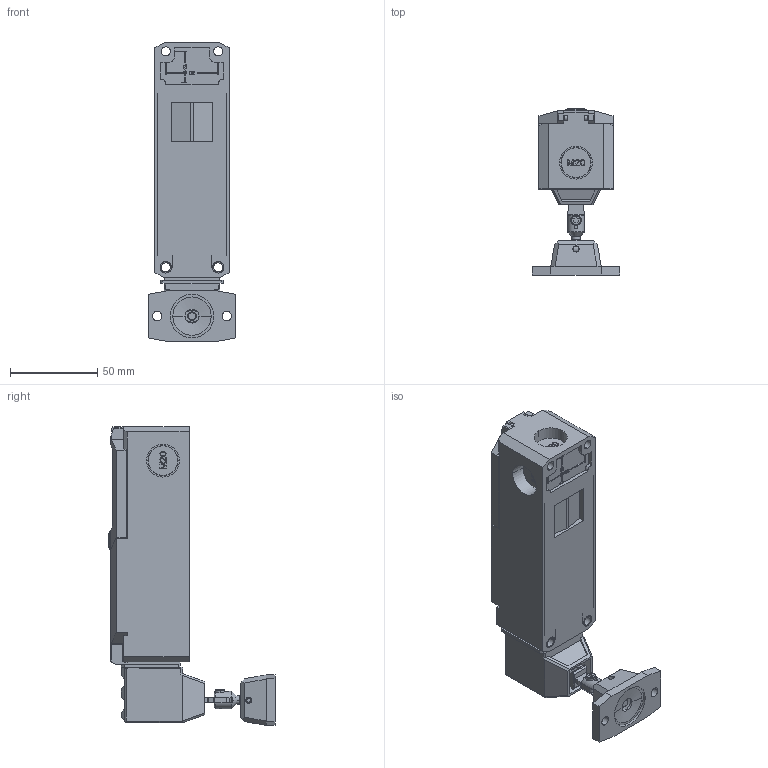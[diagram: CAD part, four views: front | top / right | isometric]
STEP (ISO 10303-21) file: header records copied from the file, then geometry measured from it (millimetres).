
FILE_DESCRIPTION((''),'2;1');
FILE_NAME('2015414_ASM','2014-03-24T',('lwegerer'),(''),'PRO/ENGINEER BY PARAMETRIC TECHNOLOGY CORPORATION, 2011040','PRO/ENGINEER BY PARAMETRIC TECHNOLOGY CORPORATION, 2011040','');
FILE_SCHEMA(('AUTOMOTIVE_DESIGN_CC2 { 1 2 10303 214 -1 1 5 2 }'));
Products named in the file (4): 2015385; 2015387; 2015389; 2015414_ASM
Assembly tree (3 placements, depth 2):
  2015414_ASM
    2015385
    2015387
    2015389
Bounding box: 50 x 95.3 x 171.5 mm (x, y, z)
Volume: 139899.5 mm3; surface area: 104959.8 mm2
Topology: 5 solids, 8 shells, 2490 faces, 6932 edges, 4475 vertices
Faces by surface type: plane 1805, cylinder 485, cone 79, torus 65, sphere 29, bspline 23, extrusion 4
Entity records: 118761 total; most frequent: CARTESIAN_POINT 17800, ORIENTED_EDGE 13776, DIRECTION 12874, PRESENTATION_STYLE_ASSIGNMENT 9075, STYLED_ITEM 6911, CURVE_STYLE 6906, EDGE_CURVE 6888, VECTOR 5402
